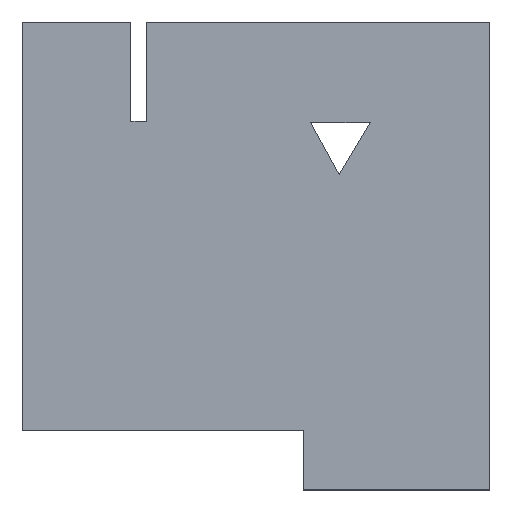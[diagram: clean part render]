
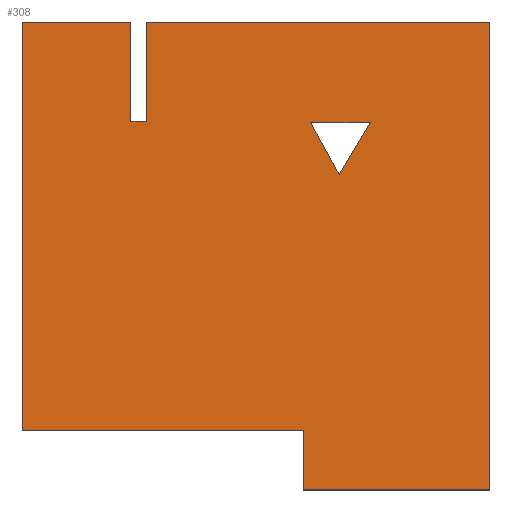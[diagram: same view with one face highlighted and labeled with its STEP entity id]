
A CAD part, top view. The second image highlights one B-rep face of the part: STEP entity #308.
In plain terms, the highlighted planar face has unit normal (0, 0, 1).
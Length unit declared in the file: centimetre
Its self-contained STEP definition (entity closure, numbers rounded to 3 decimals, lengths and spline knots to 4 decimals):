
#2 = EDGE_CURVE ( 'NONE', #171, #190, #521, .T. ) ;
#6 = DIRECTION ( 'NONE',  ( 0., 1., 0. ) ) ;
#7 = DIRECTION ( 'NONE',  ( 1., 0., 0. ) ) ;
#9 = ORIENTED_EDGE ( 'NONE', *, *, #2, .T. ) ;
#12 = EDGE_CURVE ( 'NONE', #264, #396, #244, .T. ) ;
#17 = CARTESIAN_POINT ( 'NONE',  ( 601.6093, 126.4283, 1000. ) ) ;
#23 = CARTESIAN_POINT ( 'NONE',  ( 0., 1000., 1000. ) ) ;
#25 = DIRECTION ( 'NONE',  ( 0., -1., 0. ) ) ;
#42 = AXIS2_PLACEMENT_3D ( 'NONE', #137, #91, #461 ) ;
#45 = ORIENTED_EDGE ( 'NONE', *, *, #405, .F. ) ;
#46 = LINE ( 'NONE', #181, #495 ) ;
#49 = EDGE_CURVE ( 'NONE', #164, #389, #72, .T. ) ;
#51 = ORIENTED_EDGE ( 'NONE', *, *, #451, .T. ) ;
#54 = VERTEX_POINT ( 'NONE', #458 ) ;
#55 = EDGE_CURVE ( 'NONE', #121, #54, #467, .T. ) ;
#56 = CARTESIAN_POINT ( 'NONE',  ( 232.01, 1000., 1000. ) ) ;
#58 = VERTEX_POINT ( 'NONE', #235 ) ;
#61 = EDGE_CURVE ( 'NONE', #186, #283, #383, .T. ) ;
#72 = LINE ( 'NONE', #23, #300 ) ;
#78 = DIRECTION ( 'NONE',  ( -0.478, 0.878, 0. ) ) ;
#90 = DIRECTION ( 'NONE',  ( 0., 1., 0. ) ) ;
#91 = DIRECTION ( 'NONE',  ( 0., 0., 1. ) ) ;
#94 = FACE_OUTER_BOUND ( 'NONE', #436, .T. ) ;
#105 = CARTESIAN_POINT ( 'NONE',  ( 677.9188, 673.2083, 1000. ) ) ;
#108 = VECTOR ( 'NONE', #78, 100. ) ;
#111 = CARTESIAN_POINT ( 'NONE',  ( 232.01, 788.0784, 1000. ) ) ;
#114 = ORIENTED_EDGE ( 'NONE', *, *, #161, .F. ) ;
#121 = VERTEX_POINT ( 'NONE', #56 ) ;
#130 = PLANE ( 'NONE',  #42 ) ;
#133 = CARTESIAN_POINT ( 'NONE',  ( 232.01, 788.0784, 1000. ) ) ;
#137 = CARTESIAN_POINT ( 'NONE',  ( 0., 0., 1000. ) ) ;
#148 = CARTESIAN_POINT ( 'NONE',  ( 744.8131, 785.8537, 1000. ) ) ;
#150 = ORIENTED_EDGE ( 'NONE', *, *, #173, .F. ) ;
#151 = CARTESIAN_POINT ( 'NONE',  ( 0., 126.4283, 1000. ) ) ;
#156 = DIRECTION ( 'NONE',  ( -0.511, -0.86, 0. ) ) ;
#159 = CARTESIAN_POINT ( 'NONE',  ( 601.6093, 0., 1000. ) ) ;
#161 = EDGE_CURVE ( 'NONE', #58, #401, #192, .T. ) ;
#164 = VERTEX_POINT ( 'NONE', #350 ) ;
#171 = VERTEX_POINT ( 'NONE', #148 ) ;
#173 = EDGE_CURVE ( 'NONE', #121, #186, #469, .T. ) ;
#175 = LINE ( 'NONE', #490, #184 ) ;
#181 = CARTESIAN_POINT ( 'NONE',  ( 265.7928, 788.0784, 1000. ) ) ;
#184 = VECTOR ( 'NONE', #90, 100. ) ;
#186 = VERTEX_POINT ( 'NONE', #111 ) ;
#190 = VERTEX_POINT ( 'NONE', #105 ) ;
#192 = LINE ( 'NONE', #17, #252 ) ;
#199 = LINE ( 'NONE', #440, #108 ) ;
#206 = ORIENTED_EDGE ( 'NONE', *, *, #49, .T. ) ;
#222 = EDGE_CURVE ( 'NONE', #190, #503, #199, .T. ) ;
#223 = DIRECTION ( 'NONE',  ( -1., 0., 0. ) ) ;
#230 = CARTESIAN_POINT ( 'NONE',  ( 265.7928, 788.0784, 1000. ) ) ;
#233 = ORIENTED_EDGE ( 'NONE', *, *, #254, .T. ) ;
#235 = CARTESIAN_POINT ( 'NONE',  ( 601.6093, 126.4283, 1000. ) ) ;
#244 = LINE ( 'NONE', #280, #406 ) ;
#245 = DIRECTION ( 'NONE',  ( 0., 1., 0. ) ) ;
#252 = VECTOR ( 'NONE', #509, 100. ) ;
#254 = EDGE_CURVE ( 'NONE', #54, #401, #322, .T. ) ;
#264 = VERTEX_POINT ( 'NONE', #159 ) ;
#268 = EDGE_CURVE ( 'NONE', #283, #389, #46, .T. ) ;
#270 = EDGE_CURVE ( 'NONE', #503, #171, #299, .T. ) ;
#280 = CARTESIAN_POINT ( 'NONE',  ( 0., 0., 1000. ) ) ;
#283 = VERTEX_POINT ( 'NONE', #230 ) ;
#291 = ORIENTED_EDGE ( 'NONE', *, *, #222, .T. ) ;
#299 = LINE ( 'NONE', #419, #424 ) ;
#300 = VECTOR ( 'NONE', #501, 100. ) ;
#304 = DIRECTION ( 'NONE',  ( 1., 0., 0. ) ) ;
#305 = ORIENTED_EDGE ( 'NONE', *, *, #270, .T. ) ;
#308 = ADVANCED_FACE ( 'NONE', ( #94, #347 ), #130, .T. ) ;
#310 = VECTOR ( 'NONE', #245, 100. ) ;
#313 = CARTESIAN_POINT ( 'NONE',  ( 265.7928, 1000., 1000. ) ) ;
#320 = CARTESIAN_POINT ( 'NONE',  ( 616.5998, 785.8537, 1000. ) ) ;
#322 = LINE ( 'NONE', #408, #530 ) ;
#329 = ORIENTED_EDGE ( 'NONE', *, *, #61, .F. ) ;
#347 = FACE_BOUND ( 'NONE', #407, .T. ) ;
#350 = CARTESIAN_POINT ( 'NONE',  ( 1000., 1000., 1000. ) ) ;
#362 = DIRECTION ( 'NONE',  ( 0., -1., 0. ) ) ;
#375 = VECTOR ( 'NONE', #156, 100. ) ;
#383 = LINE ( 'NONE', #499, #483 ) ;
#385 = CARTESIAN_POINT ( 'NONE',  ( 0., 1000., 1000. ) ) ;
#389 = VERTEX_POINT ( 'NONE', #313 ) ;
#396 = VERTEX_POINT ( 'NONE', #434 ) ;
#401 = VERTEX_POINT ( 'NONE', #151 ) ;
#405 = EDGE_CURVE ( 'NONE', #264, #58, #475, .T. ) ;
#406 = VECTOR ( 'NONE', #517, 100. ) ;
#407 = EDGE_LOOP ( 'NONE', ( #305, #9, #291 ) ) ;
#408 = CARTESIAN_POINT ( 'NONE',  ( 0., 1000., 1000. ) ) ;
#417 = VECTOR ( 'NONE', #25, 100. ) ;
#419 = CARTESIAN_POINT ( 'NONE',  ( 744.8131, 785.8537, 1000. ) ) ;
#424 = VECTOR ( 'NONE', #304, 100. ) ;
#429 = CARTESIAN_POINT ( 'NONE',  ( 677.9188, 673.2083, 1000. ) ) ;
#432 = VECTOR ( 'NONE', #223, 100. ) ;
#434 = CARTESIAN_POINT ( 'NONE',  ( 1000., 0., 1000. ) ) ;
#436 = EDGE_LOOP ( 'NONE', ( #114, #45, #538, #51, #206, #481, #329, #150, #528, #233 ) ) ;
#438 = CARTESIAN_POINT ( 'NONE',  ( 601.6093, 0., 1000. ) ) ;
#440 = CARTESIAN_POINT ( 'NONE',  ( 616.5998, 785.8537, 1000. ) ) ;
#451 = EDGE_CURVE ( 'NONE', #396, #164, #175, .T. ) ;
#458 = CARTESIAN_POINT ( 'NONE',  ( 0., 1000., 1000. ) ) ;
#461 = DIRECTION ( 'NONE',  ( 1., 0., 0. ) ) ;
#467 = LINE ( 'NONE', #385, #432 ) ;
#469 = LINE ( 'NONE', #133, #417 ) ;
#475 = LINE ( 'NONE', #438, #310 ) ;
#481 = ORIENTED_EDGE ( 'NONE', *, *, #268, .F. ) ;
#483 = VECTOR ( 'NONE', #7, 100. ) ;
#490 = CARTESIAN_POINT ( 'NONE',  ( 1000., 1000., 1000. ) ) ;
#495 = VECTOR ( 'NONE', #6, 100. ) ;
#499 = CARTESIAN_POINT ( 'NONE',  ( 232.01, 788.0784, 1000. ) ) ;
#501 = DIRECTION ( 'NONE',  ( -1., 0., 0. ) ) ;
#503 = VERTEX_POINT ( 'NONE', #320 ) ;
#509 = DIRECTION ( 'NONE',  ( -1., 0., 0. ) ) ;
#517 = DIRECTION ( 'NONE',  ( 1., 0., 0. ) ) ;
#521 = LINE ( 'NONE', #429, #375 ) ;
#528 = ORIENTED_EDGE ( 'NONE', *, *, #55, .T. ) ;
#530 = VECTOR ( 'NONE', #362, 100. ) ;
#538 = ORIENTED_EDGE ( 'NONE', *, *, #12, .T. ) ;
